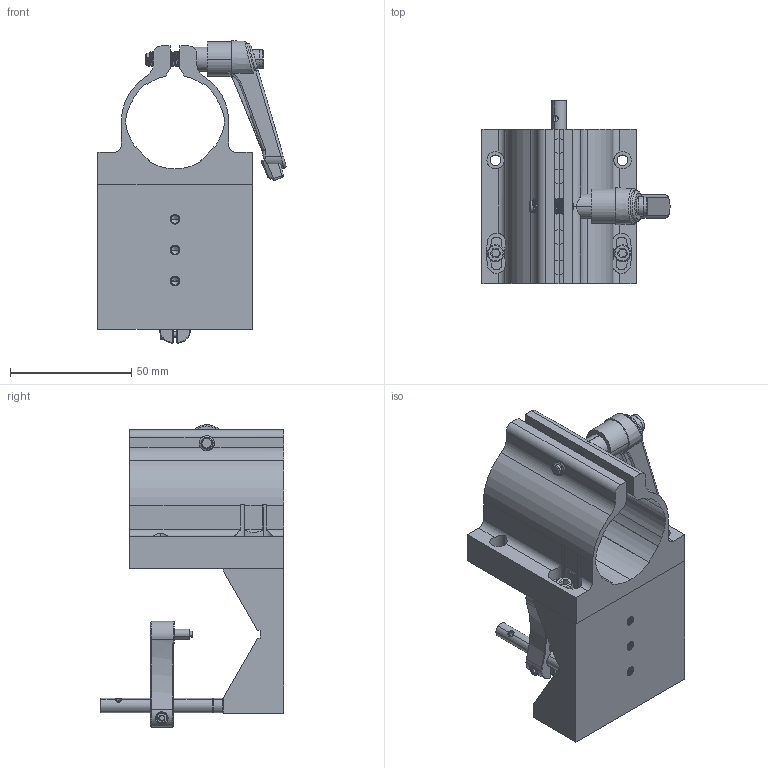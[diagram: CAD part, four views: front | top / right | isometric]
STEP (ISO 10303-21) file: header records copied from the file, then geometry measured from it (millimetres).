
FILE_DESCRIPTION((''),'2;1');
FILE_NAME('VCFP-A1_5_ASM','2025-05-08T17:47:57',('R&D'),(''),'CREO PARAMETRIC BY PTC INC, 2021063','CREO PARAMETRIC BY PTC INC, 2021063','');
FILE_SCHEMA(('CONFIG_CONTROL_DESIGN'));
Products named in the file (17): VCFP-A1_5-A2; VCFP-A1_5-A4; VCFP-A1_5-A5; VCFP-A1_5-A6; VCFP-A1_5-A7; VCFP-A1_5-A8; VCFP-A1_5-A9; VCFP-A1_5-A1_ASM; VCFP-A1_5-B2; VCFP-A1_5-B3; VCFP-A1_5-B5; VCFP-A1_5-B6; VCFP-A1_5-B7; VCFP-A1_5-B8; VCFP-A1_5-B4_ASM; VCFP-A1_5-B1_ASM; VCFP-A1_5_ASM
Assembly tree (17 placements, depth 4):
  VCFP-A1_5_ASM
    VCFP-A1_5-A1_ASM
      VCFP-A1_5-A2
      VCFP-A1_5-A4
      VCFP-A1_5-A5
      VCFP-A1_5-A6
      VCFP-A1_5-A7
      VCFP-A1_5-A8
      VCFP-A1_5-A9
    VCFP-A1_5-B1_ASM
      VCFP-A1_5-B2
      VCFP-A1_5-B3  x2
      VCFP-A1_5-B4_ASM
        VCFP-A1_5-B5
        VCFP-A1_5-B6
        VCFP-A1_5-B7
        VCFP-A1_5-B8
Bounding box: 77.49 x 75.69 x 124.7 mm (x, y, z)
Volume: 150334.9 mm3; surface area: 55720.1 mm2
Topology: 14 solids, 14 shells, 1260 faces, 3299 edges, 2089 vertices
Faces by surface type: cylinder 578, bspline 276, plane 270, cone 120, torus 12, sphere 4
Entity records: 84088 total; most frequent: CARTESIAN_POINT 56416, ORIENTED_EDGE 6454, DIRECTION 4451, EDGE_CURVE 3227, VERTEX_POINT 2059, AXIS2_PLACEMENT_3D 1567, B_SPLINE_CURVE_WITH_KNOTS 1352, VECTOR 1317
